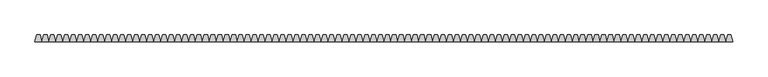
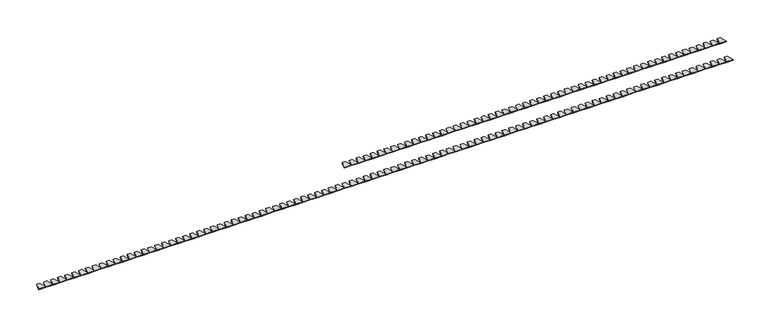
"""IFC4 building model written with IfcOpenShell, lengths in millimetres: duct fitting geometry, Частичная крышка шириной 65 мм - для кабель-канала DLP 65x195 - 2м - белый : Частичная крышка шириной 65 мм - для кабель-канала DLP 65x195 - 2м - белый."""

import ifcopenshell
import ifcopenshell.guid

model = None  # the IFC model being written
_history = None  # IfcOwnerHistory: only IFC2X3 demands one
_inside = {}  # id of a spatial element -> (the spatial element, [elements in it])
_under = {}  # id of a project, library or spatial element -> (it, [spatial elements below it])
_declared = {}  # id of a project -> (the project, [libraries it declares])
_typed = {}  # id of a type object -> (the type object, [elements of that type])
_made_of = {}  # id of a material, layer set ... -> (it, [elements and type objects made of it])


def new_model(schema):
    """Start an empty IFC model of exactly this schema.

    Asked for "IFC4X3", IfcOpenShell would pick the latest addendum, in which some entities
    have other attributes; the version numbers below select the first issue.
    IFC2X3 requires an IfcOwnerHistory on every rooted entity: one is made here for all.
    """
    global model, _history
    if schema == "IFC4X3":
        model = ifcopenshell.file(schema_version=(4, 3, 0, 0))
    else:
        model = ifcopenshell.file(schema=schema)
    _inside.clear()
    _under.clear()
    _declared.clear()
    _typed.clear()
    _made_of.clear()
    _history = None
    if model.schema == "IFC2X3":
        org = make("IfcOrganization", Name="unknown")
        user = make(
            "IfcPersonAndOrganization",
            ThePerson=make("IfcPerson", FamilyName="unknown"),
            TheOrganization=org,
        )
        app = make(
            "IfcApplication",
            ApplicationDeveloper=org,
            Version="unknown",
            ApplicationFullName="unknown",
            ApplicationIdentifier="unknown",
        )
        _history = make(
            "IfcOwnerHistory",
            OwningUser=user,
            OwningApplication=app,
            ChangeAction="ADDED",
            CreationDate=0,
        )
    return model


def make(cls, **values):
    """One entity of the class cls with the attributes given. An attribute that is None is left unset."""
    return model.create_entity(
        cls, **{name: value for name, value in values.items() if value is not None}
    )


def rooted(cls, **values):
    """An entity with a GlobalId (a new one), such as an element, a storey or a relation."""
    return make(cls, GlobalId=ifcopenshell.guid.new(), OwnerHistory=_history, **values)


def si_unit(unit_type, name, prefix=None):
    """IfcSIUnit, for example si_unit("LENGTHUNIT", "METRE", prefix="MILLI")."""
    return make("IfcSIUnit", UnitType=unit_type, Prefix=prefix, Name=name)


def assignment(units):
    """IfcUnitAssignment: the units of a project."""
    return None if units is None else make("IfcUnitAssignment", Units=units)


def point(xyz):
    """IfcCartesianPoint."""
    return None if xyz is None else make("IfcCartesianPoint", Coordinates=xyz)


def direction(xyz):
    """IfcDirection."""
    return None if xyz is None else make("IfcDirection", DirectionRatios=xyz)


def frame(location, z_axis=None, x_axis=None):
    """IfcAxis2Placement3D, a coordinate frame: its origin and axes. An axis left out is left unset."""
    return make(
        "IfcAxis2Placement3D",
        Location=point(location),
        Axis=direction(z_axis),
        RefDirection=direction(x_axis),
    )


def origin():
    """The frame at (0, 0, 0) with its axes left unset."""
    return frame((0.0, 0.0, 0.0))


def place(relative_to, where):
    """IfcLocalPlacement: puts the frame where relative to a parent placement (None: the world)."""
    return make(
        "IfcLocalPlacement", PlacementRelTo=relative_to, RelativePlacement=where
    )


def context(
    kind, dimensions, precision=None, world=None, true_north=None, identifier=None
):
    """IfcGeometricRepresentationContext, for example the 3D "Model" context."""
    return make(
        "IfcGeometricRepresentationContext",
        ContextIdentifier=identifier,
        ContextType=kind,
        CoordinateSpaceDimension=dimensions,
        Precision=precision,
        WorldCoordinateSystem=world,
        TrueNorth=true_north,
    )


def project(units=None, contexts=None):
    """IfcProject with its units and contexts."""
    return rooted(
        "IfcProject",
        Name="project",
        RepresentationContexts=contexts,
        UnitsInContext=assignment(units),
    )


def spatial(cls, under=None, at=None, **own):
    """A site, building, storey or space (cls), placed at a placement, below another one or the project."""
    s = rooted(cls, ObjectPlacement=at, **own)
    if under is not None:
        _under.setdefault(under.id(), (under, []))[1].append(s)
    return s


def polyline(points):
    """IfcPolyline through the points."""
    return make("IfcPolyline", Points=[point(p) for p in points])


def outline(outer, holes=None, kind="AREA"):
    """IfcArbitraryClosedProfileDef: a profile drawn as a closed curve; with holes, ...WithVoids."""
    if holes is None:
        return make("IfcArbitraryClosedProfileDef", ProfileType=kind, OuterCurve=outer)
    return make(
        "IfcArbitraryProfileDefWithVoids",
        ProfileType=kind,
        OuterCurve=outer,
        InnerCurves=holes,
    )


def extrude(swept, where, along, depth):
    """IfcExtrudedAreaSolid: the profile swept, set in the frame where, extruded along a direction by depth."""
    return make(
        "IfcExtrudedAreaSolid",
        SweptArea=swept,
        Position=where,
        ExtrudedDirection=direction(along),
        Depth=depth,
    )


def shape(context_of_items, identifier, shape_type, items):
    """IfcShapeRepresentation: the items that make up one representation, for example the "Body"."""
    return make(
        "IfcShapeRepresentation",
        ContextOfItems=context_of_items,
        RepresentationIdentifier=identifier,
        RepresentationType=shape_type,
        Items=items,
    )


def source(mapping_origin, context_of_items, identifier, shape_type, items):
    """IfcRepresentationMap: a shape defined once, which mapped items show again and again."""
    return make(
        "IfcRepresentationMap",
        MappingOrigin=mapping_origin,
        MappedRepresentation=shape(context_of_items, identifier, shape_type, items),
    )


def transform(
    local_origin,
    x_axis=None,
    y_axis=None,
    z_axis=None,
    scale=None,
    scale2=None,
    scale3=None,
    uniform=True,
):
    """IfcCartesianTransformationOperator3D, or its non-uniform kind. x_axis, y_axis, z_axis: its Axis1, 2, 3."""
    if uniform:
        return make(
            "IfcCartesianTransformationOperator3D",
            Axis1=direction(x_axis),
            Axis2=direction(y_axis),
            LocalOrigin=point(local_origin),
            Scale=scale,
            Axis3=direction(z_axis),
        )
    return make(
        "IfcCartesianTransformationOperator3DnonUniform",
        Axis1=direction(x_axis),
        Axis2=direction(y_axis),
        LocalOrigin=point(local_origin),
        Scale=scale,
        Axis3=direction(z_axis),
        Scale2=scale2,
        Scale3=scale3,
    )


def mapped(mapping_source, mapping_target):
    """IfcMappedItem: shows the shape of a source again, moved by a transform."""
    return make(
        "IfcMappedItem", MappingSource=mapping_source, MappingTarget=mapping_target
    )


def made_of(thing, what):
    """Note that an element or type object is made of a material, layer set ...; save() writes the relation."""
    if what is not None:
        _made_of.setdefault(what.id(), (what, []))[1].append(thing)
    return thing


def element(
    cls,
    number,
    at=None,
    inside=None,
    cuts=None,
    type_object=None,
    material=None,
    context=None,
    identifier="Body",
    shape_type=None,
    held_by="IfcProductDefinitionShape",
    body=None,
    shapes=None,
    **own,
):
    """One element of the class cls, such as IfcWall. Its Tag is "e" and its number.

    at: its placement. inside: the storey or other place that contains it. cuts: it is an
    opening in that element (IfcRelVoidsElement). A single representation is given by context,
    identifier, shape_type and body (its items); several are given by shapes. held_by: the class
    of the entity that holds the representations. save() writes the other relations.
    """
    e = rooted(cls, Tag="e%d" % number, ObjectPlacement=at, **own)
    if body is not None:
        shapes = [shape(context, identifier, shape_type, body)]
    if shapes is not None:
        e.Representation = make(held_by, Representations=shapes)
    if inside is not None:
        _inside.setdefault(inside.id(), (inside, []))[1].append(e)
    if cuts is not None:
        rooted(
            "IfcRelVoidsElement", RelatingBuildingElement=cuts, RelatedOpeningElement=e
        )
    if type_object is not None:
        _typed.setdefault(type_object.id(), (type_object, []))[1].append(e)
    return made_of(e, material)


def aggregate(whole, parts):
    """IfcRelAggregates: a whole, such as a stair, and the parts it consists of."""
    return rooted("IfcRelAggregates", RelatingObject=whole, RelatedObjects=parts)


def save(model, path):
    """Write the relations noted so far, then the file.

    IfcRelAggregates (storeys below a building ...), IfcRelContainedInSpatialStructure (elements
    in a storey), IfcRelDefinesByType, IfcRelAssociatesMaterial and IfcRelDeclares: one each for
    every whole, place, type object, material and project.
    """
    for whole, parts in _under.values():
        aggregate(whole, parts)
    for where, things in _inside.values():
        rooted(
            "IfcRelContainedInSpatialStructure",
            RelatedElements=things,
            RelatingStructure=where,
        )
    for kind, things in _typed.values():
        rooted("IfcRelDefinesByType", RelatedObjects=things, RelatingType=kind)
    for what, things in _made_of.values():
        rooted("IfcRelAssociatesMaterial", RelatedObjects=things, RelatingMaterial=what)
    for by, libraries in _declared.values():
        rooted("IfcRelDeclares", RelatingContext=by, RelatedDefinitions=libraries)
    model.write(path)


def duct_fitting_c2f39a06(model_context):
    return source(origin(), model_context, "Body", "SweptSolid", [
        extrude(outline(polyline([(974.6410162, 20.0), (980.0, 0.0), (960.0, 0.0), (965.7349077, 20.0), (974.6410162, 20.0)])), frame((0.0, 0.0, -32.5), z_axis=(0.0, 0.0, 1.0), x_axis=(1.0, 0.0, 0.0)), (0.0, 0.0, 1.0), 2.0),
        extrude(outline(polyline([(954.6410162, 20.0), (960.0, 0.0), (940.0, 0.0), (945.7349077, 20.0), (954.6410162, 20.0)])), frame((0.0, 0.0, -32.5), z_axis=(0.0, 0.0, 1.0), x_axis=(1.0, 0.0, 0.0)), (0.0, 0.0, 1.0), 2.0),
        extrude(outline(polyline([(934.6410162, 20.0), (940.0, 0.0), (920.0, 0.0), (925.7349077, 20.0), (934.6410162, 20.0)])), frame((0.0, 0.0, -32.5), z_axis=(0.0, 0.0, 1.0), x_axis=(1.0, 0.0, 0.0)), (0.0, 0.0, 1.0), 2.0),
        extrude(outline(polyline([(914.6410162, 20.0), (920.0, 0.0), (900.0, 0.0), (905.7349077, 20.0), (914.6410162, 20.0)])), frame((0.0, 0.0, -32.5), z_axis=(0.0, 0.0, 1.0), x_axis=(1.0, 0.0, 0.0)), (0.0, 0.0, 1.0), 2.0),
        extrude(outline(polyline([(894.6410162, 20.0), (900.0, 0.0), (880.0, 0.0), (885.7349077, 20.0), (894.6410162, 20.0)])), frame((0.0, 0.0, -32.5), z_axis=(0.0, 0.0, 1.0), x_axis=(1.0, 0.0, 0.0)), (0.0, 0.0, 1.0), 2.0),
        extrude(outline(polyline([(874.6410162, 20.0), (880.0, 0.0), (860.0, 0.0), (865.7349077, 20.0), (874.6410162, 20.0)])), frame((0.0, 0.0, -32.5), z_axis=(0.0, 0.0, 1.0), x_axis=(1.0, 0.0, 0.0)), (0.0, 0.0, 1.0), 2.0),
        extrude(outline(polyline([(854.6410162, 20.0), (860.0, 0.0), (840.0, 0.0), (845.7349077, 20.0), (854.6410162, 20.0)])), frame((0.0, 0.0, -32.5), z_axis=(0.0, 0.0, 1.0), x_axis=(1.0, 0.0, 0.0)), (0.0, 0.0, 1.0), 2.0),
        extrude(outline(polyline([(834.6410162, 20.0), (840.0, 0.0), (820.0, 0.0), (825.7349077, 20.0), (834.6410162, 20.0)])), frame((0.0, 0.0, -32.5), z_axis=(0.0, 0.0, 1.0), x_axis=(1.0, 0.0, 0.0)), (0.0, 0.0, 1.0), 2.0),
        extrude(outline(polyline([(814.6410162, 20.0), (820.0, 0.0), (800.0, 0.0), (805.7349077, 20.0), (814.6410162, 20.0)])), frame((0.0, 0.0, -32.5), z_axis=(0.0, 0.0, 1.0), x_axis=(1.0, 0.0, 0.0)), (0.0, 0.0, 1.0), 2.0),
        extrude(outline(polyline([(794.6410162, 20.0), (800.0, 0.0), (780.0, 0.0), (785.7349077, 20.0), (794.6410162, 20.0)])), frame((0.0, 0.0, -32.5), z_axis=(0.0, 0.0, 1.0), x_axis=(1.0, 0.0, 0.0)), (0.0, 0.0, 1.0), 2.0),
        extrude(outline(polyline([(774.6410162, 20.0), (780.0, 0.0), (760.0, 0.0), (765.7349077, 20.0), (774.6410162, 20.0)])), frame((0.0, 0.0, -32.5), z_axis=(0.0, 0.0, 1.0), x_axis=(1.0, 0.0, 0.0)), (0.0, 0.0, 1.0), 2.0),
        extrude(outline(polyline([(754.6410162, 20.0), (760.0, 0.0), (740.0, 0.0), (745.7349077, 20.0), (754.6410162, 20.0)])), frame((0.0, 0.0, -32.5), z_axis=(0.0, 0.0, 1.0), x_axis=(1.0, 0.0, 0.0)), (0.0, 0.0, 1.0), 2.0),
        extrude(outline(polyline([(734.6410162, 20.0), (740.0, 0.0), (720.0, 0.0), (725.7349077, 20.0), (734.6410162, 20.0)])), frame((0.0, 0.0, -32.5), z_axis=(0.0, 0.0, 1.0), x_axis=(1.0, 0.0, 0.0)), (0.0, 0.0, 1.0), 2.0),
        extrude(outline(polyline([(714.6410162, 20.0), (720.0, 0.0), (700.0, 0.0), (705.7349077, 20.0), (714.6410162, 20.0)])), frame((0.0, 0.0, -32.5), z_axis=(0.0, 0.0, 1.0), x_axis=(1.0, 0.0, 0.0)), (0.0, 0.0, 1.0), 2.0),
        extrude(outline(polyline([(694.6410162, 20.0), (700.0, 0.0), (680.0, 0.0), (685.7349077, 20.0), (694.6410162, 20.0)])), frame((0.0, 0.0, -32.5), z_axis=(0.0, 0.0, 1.0), x_axis=(1.0, 0.0, 0.0)), (0.0, 0.0, 1.0), 2.0),
        extrude(outline(polyline([(674.6410162, 20.0), (680.0, 0.0), (660.0, 0.0), (665.7349077, 20.0), (674.6410162, 20.0)])), frame((0.0, 0.0, -32.5), z_axis=(0.0, 0.0, 1.0), x_axis=(1.0, 0.0, 0.0)), (0.0, 0.0, 1.0), 2.0),
        extrude(outline(polyline([(654.6410162, 20.0), (660.0, 0.0), (640.0, 0.0), (645.7349077, 20.0), (654.6410162, 20.0)])), frame((0.0, 0.0, -32.5), z_axis=(0.0, 0.0, 1.0), x_axis=(1.0, 0.0, 0.0)), (0.0, 0.0, 1.0), 2.0),
        extrude(outline(polyline([(634.6410162, 20.0), (640.0, 0.0), (620.0, 0.0), (625.7349077, 20.0), (634.6410162, 20.0)])), frame((0.0, 0.0, -32.5), z_axis=(0.0, 0.0, 1.0), x_axis=(1.0, 0.0, 0.0)), (0.0, 0.0, 1.0), 2.0),
        extrude(outline(polyline([(614.6410162, 20.0), (620.0, 0.0), (600.0, 0.0), (605.7349077, 20.0), (614.6410162, 20.0)])), frame((0.0, 0.0, -32.5), z_axis=(0.0, 0.0, 1.0), x_axis=(1.0, 0.0, 0.0)), (0.0, 0.0, 1.0), 2.0),
        extrude(outline(polyline([(594.6410162, 20.0), (600.0, 0.0), (580.0, 0.0), (585.7349077, 20.0), (594.6410162, 20.0)])), frame((0.0, 0.0, -32.5), z_axis=(0.0, 0.0, 1.0), x_axis=(1.0, 0.0, 0.0)), (0.0, 0.0, 1.0), 2.0),
        extrude(outline(polyline([(574.6410162, 20.0), (580.0, 0.0), (560.0, 0.0), (565.7349077, 20.0), (574.6410162, 20.0)])), frame((0.0, 0.0, -32.5), z_axis=(0.0, 0.0, 1.0), x_axis=(1.0, 0.0, 0.0)), (0.0, 0.0, 1.0), 2.0),
        extrude(outline(polyline([(554.6410162, 20.0), (560.0, 0.0), (540.0, 0.0), (545.7349077, 20.0), (554.6410162, 20.0)])), frame((0.0, 0.0, -32.5), z_axis=(0.0, 0.0, 1.0), x_axis=(1.0, 0.0, 0.0)), (0.0, 0.0, 1.0), 2.0),
        extrude(outline(polyline([(534.6410162, 20.0), (540.0, 0.0), (520.0, 0.0), (525.7349077, 20.0), (534.6410162, 20.0)])), frame((0.0, 0.0, -32.5), z_axis=(0.0, 0.0, 1.0), x_axis=(1.0, 0.0, 0.0)), (0.0, 0.0, 1.0), 2.0),
        extrude(outline(polyline([(514.6410162, 20.0), (520.0, 0.0), (500.0, 0.0), (505.7349077, 20.0), (514.6410162, 20.0)])), frame((0.0, 0.0, -32.5), z_axis=(0.0, 0.0, 1.0), x_axis=(1.0, 0.0, 0.0)), (0.0, 0.0, 1.0), 2.0),
        extrude(outline(polyline([(494.6410162, 20.0), (500.0, 0.0), (480.0, 0.0), (485.7349077, 20.0), (494.6410162, 20.0)])), frame((0.0, 0.0, -32.5), z_axis=(0.0, 0.0, 1.0), x_axis=(1.0, 0.0, 0.0)), (0.0, 0.0, 1.0), 2.0),
        extrude(outline(polyline([(474.6410162, 20.0), (480.0, 0.0), (460.0, 0.0), (465.7349077, 20.0), (474.6410162, 20.0)])), frame((0.0, 0.0, -32.5), z_axis=(0.0, 0.0, 1.0), x_axis=(1.0, 0.0, 0.0)), (0.0, 0.0, 1.0), 2.0),
        extrude(outline(polyline([(454.6410162, 20.0), (460.0, 0.0), (440.0, 0.0), (445.7349077, 20.0), (454.6410162, 20.0)])), frame((0.0, 0.0, -32.5), z_axis=(0.0, 0.0, 1.0), x_axis=(1.0, 0.0, 0.0)), (0.0, 0.0, 1.0), 2.0),
        extrude(outline(polyline([(434.6410162, 20.0), (440.0, 0.0), (420.0, 0.0), (425.7349077, 20.0), (434.6410162, 20.0)])), frame((0.0, 0.0, -32.5), z_axis=(0.0, 0.0, 1.0), x_axis=(1.0, 0.0, 0.0)), (0.0, 0.0, 1.0), 2.0),
        extrude(outline(polyline([(414.6410162, 20.0), (420.0, 0.0), (400.0, 0.0), (405.7349077, 20.0), (414.6410162, 20.0)])), frame((0.0, 0.0, -32.5), z_axis=(0.0, 0.0, 1.0), x_axis=(1.0, 0.0, 0.0)), (0.0, 0.0, 1.0), 2.0),
        extrude(outline(polyline([(394.6410162, 20.0), (400.0, 0.0), (380.0, 0.0), (385.7349077, 20.0), (394.6410162, 20.0)])), frame((0.0, 0.0, -32.5), z_axis=(0.0, 0.0, 1.0), x_axis=(1.0, 0.0, 0.0)), (0.0, 0.0, 1.0), 2.0),
        extrude(outline(polyline([(374.6410162, 20.0), (380.0, 0.0), (360.0, 0.0), (365.7349077, 20.0), (374.6410162, 20.0)])), frame((0.0, 0.0, -32.5), z_axis=(0.0, 0.0, 1.0), x_axis=(1.0, 0.0, 0.0)), (0.0, 0.0, 1.0), 2.0),
        extrude(outline(polyline([(354.6410162, 20.0), (360.0, 0.0), (340.0, 0.0), (345.7349077, 20.0), (354.6410162, 20.0)])), frame((0.0, 0.0, -32.5), z_axis=(0.0, 0.0, 1.0), x_axis=(1.0, 0.0, 0.0)), (0.0, 0.0, 1.0), 2.0),
        extrude(outline(polyline([(334.6410162, 20.0), (340.0, 0.0), (320.0, 0.0), (325.7349077, 20.0), (334.6410162, 20.0)])), frame((0.0, 0.0, -32.5), z_axis=(0.0, 0.0, 1.0), x_axis=(1.0, 0.0, 0.0)), (0.0, 0.0, 1.0), 2.0),
        extrude(outline(polyline([(314.6410162, 20.0), (320.0, 0.0), (300.0, 0.0), (305.7349077, 20.0), (314.6410162, 20.0)])), frame((0.0, 0.0, -32.5), z_axis=(0.0, 0.0, 1.0), x_axis=(1.0, 0.0, 0.0)), (0.0, 0.0, 1.0), 2.0),
        extrude(outline(polyline([(294.6410162, 20.0), (300.0, 0.0), (280.0, 0.0), (285.7349077, 20.0), (294.6410162, 20.0)])), frame((0.0, 0.0, -32.5), z_axis=(0.0, 0.0, 1.0), x_axis=(1.0, 0.0, 0.0)), (0.0, 0.0, 1.0), 2.0),
        extrude(outline(polyline([(274.6410162, 20.0), (280.0, 0.0), (260.0, 0.0), (265.7349077, 20.0), (274.6410162, 20.0)])), frame((0.0, 0.0, -32.5), z_axis=(0.0, 0.0, 1.0), x_axis=(1.0, 0.0, 0.0)), (0.0, 0.0, 1.0), 2.0),
        extrude(outline(polyline([(254.6410162, 20.0), (260.0, 0.0), (240.0, 0.0), (245.7349077, 20.0), (254.6410162, 20.0)])), frame((0.0, 0.0, -32.5), z_axis=(0.0, 0.0, 1.0), x_axis=(1.0, 0.0, 0.0)), (0.0, 0.0, 1.0), 2.0),
        extrude(outline(polyline([(234.6410162, 20.0), (240.0, 0.0), (220.0, 0.0), (225.7349077, 20.0), (234.6410162, 20.0)])), frame((0.0, 0.0, -32.5), z_axis=(0.0, 0.0, 1.0), x_axis=(1.0, 0.0, 0.0)), (0.0, 0.0, 1.0), 2.0),
        extrude(outline(polyline([(214.6410162, 20.0), (220.0, 0.0), (200.0, 0.0), (205.7349077, 20.0), (214.6410162, 20.0)])), frame((0.0, 0.0, -32.5), z_axis=(0.0, 0.0, 1.0), x_axis=(1.0, 0.0, 0.0)), (0.0, 0.0, 1.0), 2.0),
        extrude(outline(polyline([(194.6410162, 20.0), (200.0, 0.0), (180.0, 0.0), (185.7349077, 20.0), (194.6410162, 20.0)])), frame((0.0, 0.0, -32.5), z_axis=(0.0, 0.0, 1.0), x_axis=(1.0, 0.0, 0.0)), (0.0, 0.0, 1.0), 2.0),
        extrude(outline(polyline([(174.6410162, 20.0), (180.0, 0.0), (160.0, 0.0), (165.7349077, 20.0), (174.6410162, 20.0)])), frame((0.0, 0.0, -32.5), z_axis=(0.0, 0.0, 1.0), x_axis=(1.0, 0.0, 0.0)), (0.0, 0.0, 1.0), 2.0),
        extrude(outline(polyline([(154.6410162, 20.0), (160.0, 0.0), (140.0, 0.0), (145.7349077, 20.0), (154.6410162, 20.0)])), frame((0.0, 0.0, -32.5), z_axis=(0.0, 0.0, 1.0), x_axis=(1.0, 0.0, 0.0)), (0.0, 0.0, 1.0), 2.0),
        extrude(outline(polyline([(134.6410162, 20.0), (140.0, 0.0), (120.0, 0.0), (125.7349077, 20.0), (134.6410162, 20.0)])), frame((0.0, 0.0, -32.5), z_axis=(0.0, 0.0, 1.0), x_axis=(1.0, 0.0, 0.0)), (0.0, 0.0, 1.0), 2.0),
        extrude(outline(polyline([(114.6410162, 20.0), (120.0, 0.0), (100.0, 0.0), (105.7349077, 20.0), (114.6410162, 20.0)])), frame((0.0, 0.0, -32.5), z_axis=(0.0, 0.0, 1.0), x_axis=(1.0, 0.0, 0.0)), (0.0, 0.0, 1.0), 2.0),
        extrude(outline(polyline([(94.6410162, 20.0), (100.0, 0.0), (80.0, 0.0), (85.7349077, 20.0), (94.6410162, 20.0)])), frame((0.0, 0.0, -32.5), z_axis=(0.0, 0.0, 1.0), x_axis=(1.0, 0.0, 0.0)), (0.0, 0.0, 1.0), 2.0),
        extrude(outline(polyline([(74.6410162, 20.0), (80.0, 0.0), (60.0, 0.0), (65.7349077, 20.0), (74.6410162, 20.0)])), frame((0.0, 0.0, -32.5), z_axis=(0.0, 0.0, 1.0), x_axis=(1.0, 0.0, 0.0)), (0.0, 0.0, 1.0), 2.0),
        extrude(outline(polyline([(54.6410162, 20.0), (60.0, 0.0), (40.0, 0.0), (45.7349077, 20.0), (54.6410162, 20.0)])), frame((0.0, 0.0, -32.5), z_axis=(0.0, 0.0, 1.0), x_axis=(1.0, 0.0, 0.0)), (0.0, 0.0, 1.0), 2.0),
        extrude(outline(polyline([(34.6410162, 20.0), (40.0, 0.0), (20.0, 0.0), (25.7349077, 20.0), (34.6410162, 20.0)])), frame((0.0, 0.0, -32.5), z_axis=(0.0, 0.0, 1.0), x_axis=(1.0, 0.0, 0.0)), (0.0, 0.0, 1.0), 2.0),
        extrude(outline(polyline([(14.6410162, 20.0), (20.0, 0.0), (0.0, 0.0), (5.7349077, 20.0), (14.6410162, 20.0)])), frame((0.0, 0.0, -32.5), z_axis=(0.0, 0.0, 1.0), x_axis=(1.0, 0.0, 0.0)), (0.0, 0.0, 1.0), 2.0),
        extrude(outline(polyline([(-5.3589838, 20.0), (0.0, 0.0), (-20.0, 0.0), (-14.2650923, 20.0), (-5.3589838, 20.0)])), frame((0.0, 0.0, -32.5), z_axis=(0.0, 0.0, 1.0), x_axis=(1.0, 0.0, 0.0)), (0.0, 0.0, 1.0), 2.0),
        extrude(outline(polyline([(-25.3589838, 20.0), (-20.0, 0.0), (-40.0, 0.0), (-34.2650923, 20.0), (-25.3589838, 20.0)])), frame((0.0, 0.0, -32.5), z_axis=(0.0, 0.0, 1.0), x_axis=(1.0, 0.0, 0.0)), (0.0, 0.0, 1.0), 2.0),
        extrude(outline(polyline([(-45.3589838, 20.0), (-40.0, 0.0), (-60.0, 0.0), (-54.2650923, 20.0), (-45.3589838, 20.0)])), frame((0.0, 0.0, -32.5), z_axis=(0.0, 0.0, 1.0), x_axis=(1.0, 0.0, 0.0)), (0.0, 0.0, 1.0), 2.0),
        extrude(outline(polyline([(-65.3589838, 20.0), (-60.0, 0.0), (-80.0, 0.0), (-74.2650923, 20.0), (-65.3589838, 20.0)])), frame((0.0, 0.0, -32.5), z_axis=(0.0, 0.0, 1.0), x_axis=(1.0, 0.0, 0.0)), (0.0, 0.0, 1.0), 2.0),
        extrude(outline(polyline([(-85.3589838, 20.0), (-80.0, 0.0), (-100.0, 0.0), (-94.2650923, 20.0), (-85.3589838, 20.0)])), frame((0.0, 0.0, -32.5), z_axis=(0.0, 0.0, 1.0), x_axis=(1.0, 0.0, 0.0)), (0.0, 0.0, 1.0), 2.0),
        extrude(outline(polyline([(-105.3589838, 20.0), (-100.0, 0.0), (-120.0, 0.0), (-114.2650923, 20.0), (-105.3589838, 20.0)])), frame((0.0, 0.0, -32.5), z_axis=(0.0, 0.0, 1.0), x_axis=(1.0, 0.0, 0.0)), (0.0, 0.0, 1.0), 2.0),
        extrude(outline(polyline([(-125.3589838, 20.0), (-120.0, 0.0), (-140.0, 0.0), (-134.2650923, 20.0), (-125.3589838, 20.0)])), frame((0.0, 0.0, -32.5), z_axis=(0.0, 0.0, 1.0), x_axis=(1.0, 0.0, 0.0)), (0.0, 0.0, 1.0), 2.0),
        extrude(outline(polyline([(-145.3589838, 20.0), (-140.0, 0.0), (-160.0, 0.0), (-154.2650923, 20.0), (-145.3589838, 20.0)])), frame((0.0, 0.0, -32.5), z_axis=(0.0, 0.0, 1.0), x_axis=(1.0, 0.0, 0.0)), (0.0, 0.0, 1.0), 2.0),
        extrude(outline(polyline([(-165.3589838, 20.0), (-160.0, 0.0), (-180.0, 0.0), (-174.2650923, 20.0), (-165.3589838, 20.0)])), frame((0.0, 0.0, -32.5), z_axis=(0.0, 0.0, 1.0), x_axis=(1.0, 0.0, 0.0)), (0.0, 0.0, 1.0), 2.0),
        extrude(outline(polyline([(-185.3589838, 20.0), (-180.0, 0.0), (-200.0, 0.0), (-194.2650923, 20.0), (-185.3589838, 20.0)])), frame((0.0, 0.0, -32.5), z_axis=(0.0, 0.0, 1.0), x_axis=(1.0, 0.0, 0.0)), (0.0, 0.0, 1.0), 2.0),
        extrude(outline(polyline([(-205.3589838, 20.0), (-200.0, 0.0), (-220.0, 0.0), (-214.2650923, 20.0), (-205.3589838, 20.0)])), frame((0.0, 0.0, -32.5), z_axis=(0.0, 0.0, 1.0), x_axis=(1.0, 0.0, 0.0)), (0.0, 0.0, 1.0), 2.0),
        extrude(outline(polyline([(-225.3589838, 20.0), (-220.0, 0.0), (-240.0, 0.0), (-234.2650923, 20.0), (-225.3589838, 20.0)])), frame((0.0, 0.0, -32.5), z_axis=(0.0, 0.0, 1.0), x_axis=(1.0, 0.0, 0.0)), (0.0, 0.0, 1.0), 2.0),
        extrude(outline(polyline([(-245.3589838, 20.0), (-240.0, 0.0), (-260.0, 0.0), (-254.2650923, 20.0), (-245.3589838, 20.0)])), frame((0.0, 0.0, -32.5), z_axis=(0.0, 0.0, 1.0), x_axis=(1.0, 0.0, 0.0)), (0.0, 0.0, 1.0), 2.0),
        extrude(outline(polyline([(-265.3589838, 20.0), (-260.0, 0.0), (-280.0, 0.0), (-274.2650923, 20.0), (-265.3589838, 20.0)])), frame((0.0, 0.0, -32.5), z_axis=(0.0, 0.0, 1.0), x_axis=(1.0, 0.0, 0.0)), (0.0, 0.0, 1.0), 2.0),
        extrude(outline(polyline([(-285.3589838, 20.0), (-280.0, 0.0), (-300.0, 0.0), (-294.2650923, 20.0), (-285.3589838, 20.0)])), frame((0.0, 0.0, -32.5), z_axis=(0.0, 0.0, 1.0), x_axis=(1.0, 0.0, 0.0)), (0.0, 0.0, 1.0), 2.0),
        extrude(outline(polyline([(-305.3589838, 20.0), (-300.0, 0.0), (-320.0, 0.0), (-314.2650923, 20.0), (-305.3589838, 20.0)])), frame((0.0, 0.0, -32.5), z_axis=(0.0, 0.0, 1.0), x_axis=(1.0, 0.0, 0.0)), (0.0, 0.0, 1.0), 2.0),
        extrude(outline(polyline([(-325.3589838, 20.0), (-320.0, 0.0), (-340.0, 0.0), (-334.2650923, 20.0), (-325.3589838, 20.0)])), frame((0.0, 0.0, -32.5), z_axis=(0.0, 0.0, 1.0), x_axis=(1.0, 0.0, 0.0)), (0.0, 0.0, 1.0), 2.0),
        extrude(outline(polyline([(-345.3589838, 20.0), (-340.0, 0.0), (-360.0, 0.0), (-354.2650923, 20.0), (-345.3589838, 20.0)])), frame((0.0, 0.0, -32.5), z_axis=(0.0, 0.0, 1.0), x_axis=(1.0, 0.0, 0.0)), (0.0, 0.0, 1.0), 2.0),
        extrude(outline(polyline([(-365.3589838, 20.0), (-360.0, 0.0), (-380.0, 0.0), (-374.2650923, 20.0), (-365.3589838, 20.0)])), frame((0.0, 0.0, -32.5), z_axis=(0.0, 0.0, 1.0), x_axis=(1.0, 0.0, 0.0)), (0.0, 0.0, 1.0), 2.0),
        extrude(outline(polyline([(-385.3589838, 20.0), (-380.0, 0.0), (-400.0, 0.0), (-394.2650923, 20.0), (-385.3589838, 20.0)])), frame((0.0, 0.0, -32.5), z_axis=(0.0, 0.0, 1.0), x_axis=(1.0, 0.0, 0.0)), (0.0, 0.0, 1.0), 2.0),
        extrude(outline(polyline([(-405.3589838, 20.0), (-400.0, 0.0), (-420.0, 0.0), (-414.2650923, 20.0), (-405.3589838, 20.0)])), frame((0.0, 0.0, -32.5), z_axis=(0.0, 0.0, 1.0), x_axis=(1.0, 0.0, 0.0)), (0.0, 0.0, 1.0), 2.0),
        extrude(outline(polyline([(-425.3589838, 20.0), (-420.0, 0.0), (-440.0, 0.0), (-434.2650923, 20.0), (-425.3589838, 20.0)])), frame((0.0, 0.0, -32.5), z_axis=(0.0, 0.0, 1.0), x_axis=(1.0, 0.0, 0.0)), (0.0, 0.0, 1.0), 2.0),
        extrude(outline(polyline([(-445.3589838, 20.0), (-440.0, 0.0), (-460.0, 0.0), (-454.2650923, 20.0), (-445.3589838, 20.0)])), frame((0.0, 0.0, -32.5), z_axis=(0.0, 0.0, 1.0), x_axis=(1.0, 0.0, 0.0)), (0.0, 0.0, 1.0), 2.0),
        extrude(outline(polyline([(-465.3589838, 20.0), (-460.0, 0.0), (-480.0, 0.0), (-474.2650923, 20.0), (-465.3589838, 20.0)])), frame((0.0, 0.0, -32.5), z_axis=(0.0, 0.0, 1.0), x_axis=(1.0, 0.0, 0.0)), (0.0, 0.0, 1.0), 2.0),
        extrude(outline(polyline([(-485.3589838, 20.0), (-480.0, 0.0), (-500.0, 0.0), (-494.2650923, 20.0), (-485.3589838, 20.0)])), frame((0.0, 0.0, -32.5), z_axis=(0.0, 0.0, 1.0), x_axis=(1.0, 0.0, 0.0)), (0.0, 0.0, 1.0), 2.0),
        extrude(outline(polyline([(-505.3589838, 20.0), (-500.0, 0.0), (-520.0, 0.0), (-514.2650923, 20.0), (-505.3589838, 20.0)])), frame((0.0, 0.0, -32.5), z_axis=(0.0, 0.0, 1.0), x_axis=(1.0, 0.0, 0.0)), (0.0, 0.0, 1.0), 2.0),
        extrude(outline(polyline([(-525.3589838, 20.0), (-520.0, 0.0), (-540.0, 0.0), (-534.2650923, 20.0), (-525.3589838, 20.0)])), frame((0.0, 0.0, -32.5), z_axis=(0.0, 0.0, 1.0), x_axis=(1.0, 0.0, 0.0)), (0.0, 0.0, 1.0), 2.0),
        extrude(outline(polyline([(-545.3589838, 20.0), (-540.0, 0.0), (-560.0, 0.0), (-554.2650923, 20.0), (-545.3589838, 20.0)])), frame((0.0, 0.0, -32.5), z_axis=(0.0, 0.0, 1.0), x_axis=(1.0, 0.0, 0.0)), (0.0, 0.0, 1.0), 2.0),
        extrude(outline(polyline([(-565.3589838, 20.0), (-560.0, 0.0), (-580.0, 0.0), (-574.2650923, 20.0), (-565.3589838, 20.0)])), frame((0.0, 0.0, -32.5), z_axis=(0.0, 0.0, 1.0), x_axis=(1.0, 0.0, 0.0)), (0.0, 0.0, 1.0), 2.0),
        extrude(outline(polyline([(-585.3589838, 20.0), (-580.0, 0.0), (-600.0, 0.0), (-594.2650923, 20.0), (-585.3589838, 20.0)])), frame((0.0, 0.0, -32.5), z_axis=(0.0, 0.0, 1.0), x_axis=(1.0, 0.0, 0.0)), (0.0, 0.0, 1.0), 2.0),
        extrude(outline(polyline([(-605.3589838, 20.0), (-600.0, 0.0), (-620.0, 0.0), (-614.2650923, 20.0), (-605.3589838, 20.0)])), frame((0.0, 0.0, -32.5), z_axis=(0.0, 0.0, 1.0), x_axis=(1.0, 0.0, 0.0)), (0.0, 0.0, 1.0), 2.0),
        extrude(outline(polyline([(-625.3589838, 20.0), (-620.0, 0.0), (-640.0, 0.0), (-634.2650923, 20.0), (-625.3589838, 20.0)])), frame((0.0, 0.0, -32.5), z_axis=(0.0, 0.0, 1.0), x_axis=(1.0, 0.0, 0.0)), (0.0, 0.0, 1.0), 2.0),
        extrude(outline(polyline([(-645.3589838, 20.0), (-640.0, 0.0), (-660.0, 0.0), (-654.2650923, 20.0), (-645.3589838, 20.0)])), frame((0.0, 0.0, -32.5), z_axis=(0.0, 0.0, 1.0), x_axis=(1.0, 0.0, 0.0)), (0.0, 0.0, 1.0), 2.0),
        extrude(outline(polyline([(-665.3589838, 20.0), (-660.0, 0.0), (-680.0, 0.0), (-674.2650923, 20.0), (-665.3589838, 20.0)])), frame((0.0, 0.0, -32.5), z_axis=(0.0, 0.0, 1.0), x_axis=(1.0, 0.0, 0.0)), (0.0, 0.0, 1.0), 2.0),
        extrude(outline(polyline([(-685.3589838, 20.0), (-680.0, 0.0), (-700.0, 0.0), (-694.2650923, 20.0), (-685.3589838, 20.0)])), frame((0.0, 0.0, -32.5), z_axis=(0.0, 0.0, 1.0), x_axis=(1.0, 0.0, 0.0)), (0.0, 0.0, 1.0), 2.0),
        extrude(outline(polyline([(-705.3589838, 20.0), (-700.0, 0.0), (-720.0, 0.0), (-714.2650923, 20.0), (-705.3589838, 20.0)])), frame((0.0, 0.0, -32.5), z_axis=(0.0, 0.0, 1.0), x_axis=(1.0, 0.0, 0.0)), (0.0, 0.0, 1.0), 2.0),
        extrude(outline(polyline([(-725.3589838, 20.0), (-720.0, 0.0), (-740.0, 0.0), (-734.2650923, 20.0), (-725.3589838, 20.0)])), frame((0.0, 0.0, -32.5), z_axis=(0.0, 0.0, 1.0), x_axis=(1.0, 0.0, 0.0)), (0.0, 0.0, 1.0), 2.0),
        extrude(outline(polyline([(-745.3589838, 20.0), (-740.0, 0.0), (-760.0, 0.0), (-754.2650923, 20.0), (-745.3589838, 20.0)])), frame((0.0, 0.0, -32.5), z_axis=(0.0, 0.0, 1.0), x_axis=(1.0, 0.0, 0.0)), (0.0, 0.0, 1.0), 2.0),
        extrude(outline(polyline([(-765.3589838, 20.0), (-760.0, 0.0), (-780.0, 0.0), (-774.2650923, 20.0), (-765.3589838, 20.0)])), frame((0.0, 0.0, -32.5), z_axis=(0.0, 0.0, 1.0), x_axis=(1.0, 0.0, 0.0)), (0.0, 0.0, 1.0), 2.0),
        extrude(outline(polyline([(-785.3589838, 20.0), (-780.0, 0.0), (-800.0, 0.0), (-794.2650923, 20.0), (-785.3589838, 20.0)])), frame((0.0, 0.0, -32.5), z_axis=(0.0, 0.0, 1.0), x_axis=(1.0, 0.0, 0.0)), (0.0, 0.0, 1.0), 2.0),
        extrude(outline(polyline([(-805.3589838, 20.0), (-800.0, 0.0), (-820.0, 0.0), (-814.2650923, 20.0), (-805.3589838, 20.0)])), frame((0.0, 0.0, -32.5), z_axis=(0.0, 0.0, 1.0), x_axis=(1.0, 0.0, 0.0)), (0.0, 0.0, 1.0), 2.0),
        extrude(outline(polyline([(-825.3589838, 20.0), (-820.0, 0.0), (-840.0, 0.0), (-834.2650923, 20.0), (-825.3589838, 20.0)])), frame((0.0, 0.0, -32.5), z_axis=(0.0, 0.0, 1.0), x_axis=(1.0, 0.0, 0.0)), (0.0, 0.0, 1.0), 2.0),
        extrude(outline(polyline([(-845.3589838, 20.0), (-840.0, 0.0), (-860.0, 0.0), (-854.2650923, 20.0), (-845.3589838, 20.0)])), frame((0.0, 0.0, -32.5), z_axis=(0.0, 0.0, 1.0), x_axis=(1.0, 0.0, 0.0)), (0.0, 0.0, 1.0), 2.0),
        extrude(outline(polyline([(-865.3589838, 20.0), (-860.0, 0.0), (-880.0, 0.0), (-874.2650923, 20.0), (-865.3589838, 20.0)])), frame((0.0, 0.0, -32.5), z_axis=(0.0, 0.0, 1.0), x_axis=(1.0, 0.0, 0.0)), (0.0, 0.0, 1.0), 2.0),
        extrude(outline(polyline([(-885.3589838, 20.0), (-880.0, 0.0), (-900.0, 0.0), (-894.2650923, 20.0), (-885.3589838, 20.0)])), frame((0.0, 0.0, -32.5), z_axis=(0.0, 0.0, 1.0), x_axis=(1.0, 0.0, 0.0)), (0.0, 0.0, 1.0), 2.0),
        extrude(outline(polyline([(-905.3589838, 20.0), (-900.0, 0.0), (-920.0, 0.0), (-914.2650923, 20.0), (-905.3589838, 20.0)])), frame((0.0, 0.0, -32.5), z_axis=(0.0, 0.0, 1.0), x_axis=(1.0, 0.0, 0.0)), (0.0, 0.0, 1.0), 2.0),
        extrude(outline(polyline([(-925.3589838, 20.0), (-920.0, 0.0), (-940.0, 0.0), (-934.2650923, 20.0), (-925.3589838, 20.0)])), frame((0.0, 0.0, -32.5), z_axis=(0.0, 0.0, 1.0), x_axis=(1.0, 0.0, 0.0)), (0.0, 0.0, 1.0), 2.0),
        extrude(outline(polyline([(-945.3589838, 20.0), (-940.0, 0.0), (-960.0, 0.0), (-954.2650923, 20.0), (-945.3589838, 20.0)])), frame((0.0, 0.0, -32.5), z_axis=(0.0, 0.0, 1.0), x_axis=(1.0, 0.0, 0.0)), (0.0, 0.0, 1.0), 2.0),
        extrude(outline(polyline([(-965.3589838, 20.0), (-960.0, 0.0), (-980.0, 0.0), (-974.2650923, 20.0), (-965.3589838, 20.0)])), frame((0.0, 0.0, -32.5), z_axis=(0.0, 0.0, 1.0), x_axis=(1.0, 0.0, 0.0)), (0.0, 0.0, 1.0), 2.0),
        extrude(outline(polyline([(994.6410162, 20.0), (1000.0, 0.0), (980.0, 0.0), (985.7349077, 20.0), (994.6410162, 20.0)])), frame((0.0, 0.0, -32.5), z_axis=(0.0, 0.0, 1.0), x_axis=(1.0, 0.0, 0.0)), (0.0, 0.0, 1.0), 2.0),
        extrude(outline(polyline([(-985.3589838, 20.0), (-980.0, 0.0), (-1000.0, 0.0), (-994.2650923, 20.0), (-985.3589838, 20.0)])), frame((0.0, 0.0, -32.5), z_axis=(0.0, 0.0, 1.0), x_axis=(1.0, 0.0, 0.0)), (0.0, 0.0, 1.0), 2.0),
        extrude(outline(polyline([(974.6410162, 20.0), (980.0, 0.0), (960.0, 0.0), (965.7349077, 20.0), (974.6410162, 20.0)])), frame((0.0, 0.0, 30.5), z_axis=(0.0, 0.0, 1.0), x_axis=(1.0, 0.0, 0.0)), (0.0, 0.0, 1.0), 2.0),
        extrude(outline(polyline([(954.6410162, 20.0), (960.0, 0.0), (940.0, 0.0), (945.7349077, 20.0), (954.6410162, 20.0)])), frame((0.0, 0.0, 30.5), z_axis=(0.0, 0.0, 1.0), x_axis=(1.0, 0.0, 0.0)), (0.0, 0.0, 1.0), 2.0),
        extrude(outline(polyline([(934.6410162, 20.0), (940.0, 0.0), (920.0, 0.0), (925.7349077, 20.0), (934.6410162, 20.0)])), frame((0.0, 0.0, 30.5), z_axis=(0.0, 0.0, 1.0), x_axis=(1.0, 0.0, 0.0)), (0.0, 0.0, 1.0), 2.0),
        extrude(outline(polyline([(914.6410162, 20.0), (920.0, 0.0), (900.0, 0.0), (905.7349077, 20.0), (914.6410162, 20.0)])), frame((0.0, 0.0, 30.5), z_axis=(0.0, 0.0, 1.0), x_axis=(1.0, 0.0, 0.0)), (0.0, 0.0, 1.0), 2.0),
        extrude(outline(polyline([(894.6410162, 20.0), (900.0, 0.0), (880.0, 0.0), (885.7349077, 20.0), (894.6410162, 20.0)])), frame((0.0, 0.0, 30.5), z_axis=(0.0, 0.0, 1.0), x_axis=(1.0, 0.0, 0.0)), (0.0, 0.0, 1.0), 2.0),
        extrude(outline(polyline([(874.6410162, 20.0), (880.0, 0.0), (860.0, 0.0), (865.7349077, 20.0), (874.6410162, 20.0)])), frame((0.0, 0.0, 30.5), z_axis=(0.0, 0.0, 1.0), x_axis=(1.0, 0.0, 0.0)), (0.0, 0.0, 1.0), 2.0),
        extrude(outline(polyline([(854.6410162, 20.0), (860.0, 0.0), (840.0, 0.0), (845.7349077, 20.0), (854.6410162, 20.0)])), frame((0.0, 0.0, 30.5), z_axis=(0.0, 0.0, 1.0), x_axis=(1.0, 0.0, 0.0)), (0.0, 0.0, 1.0), 2.0),
        extrude(outline(polyline([(834.6410162, 20.0), (840.0, 0.0), (820.0, 0.0), (825.7349077, 20.0), (834.6410162, 20.0)])), frame((0.0, 0.0, 30.5), z_axis=(0.0, 0.0, 1.0), x_axis=(1.0, 0.0, 0.0)), (0.0, 0.0, 1.0), 2.0),
        extrude(outline(polyline([(814.6410162, 20.0), (820.0, 0.0), (800.0, 0.0), (805.7349077, 20.0), (814.6410162, 20.0)])), frame((0.0, 0.0, 30.5), z_axis=(0.0, 0.0, 1.0), x_axis=(1.0, 0.0, 0.0)), (0.0, 0.0, 1.0), 2.0),
        extrude(outline(polyline([(794.6410162, 20.0), (800.0, 0.0), (780.0, 0.0), (785.7349077, 20.0), (794.6410162, 20.0)])), frame((0.0, 0.0, 30.5), z_axis=(0.0, 0.0, 1.0), x_axis=(1.0, 0.0, 0.0)), (0.0, 0.0, 1.0), 2.0),
        extrude(outline(polyline([(774.6410162, 20.0), (780.0, 0.0), (760.0, 0.0), (765.7349077, 20.0), (774.6410162, 20.0)])), frame((0.0, 0.0, 30.5), z_axis=(0.0, 0.0, 1.0), x_axis=(1.0, 0.0, 0.0)), (0.0, 0.0, 1.0), 2.0),
        extrude(outline(polyline([(754.6410162, 20.0), (760.0, 0.0), (740.0, 0.0), (745.7349077, 20.0), (754.6410162, 20.0)])), frame((0.0, 0.0, 30.5), z_axis=(0.0, 0.0, 1.0), x_axis=(1.0, 0.0, 0.0)), (0.0, 0.0, 1.0), 2.0),
        extrude(outline(polyline([(734.6410162, 20.0), (740.0, 0.0), (720.0, 0.0), (725.7349077, 20.0), (734.6410162, 20.0)])), frame((0.0, 0.0, 30.5), z_axis=(0.0, 0.0, 1.0), x_axis=(1.0, 0.0, 0.0)), (0.0, 0.0, 1.0), 2.0),
        extrude(outline(polyline([(714.6410162, 20.0), (720.0, 0.0), (700.0, 0.0), (705.7349077, 20.0), (714.6410162, 20.0)])), frame((0.0, 0.0, 30.5), z_axis=(0.0, 0.0, 1.0), x_axis=(1.0, 0.0, 0.0)), (0.0, 0.0, 1.0), 2.0),
        extrude(outline(polyline([(694.6410162, 20.0), (700.0, 0.0), (680.0, 0.0), (685.7349077, 20.0), (694.6410162, 20.0)])), frame((0.0, 0.0, 30.5), z_axis=(0.0, 0.0, 1.0), x_axis=(1.0, 0.0, 0.0)), (0.0, 0.0, 1.0), 2.0),
        extrude(outline(polyline([(674.6410162, 20.0), (680.0, 0.0), (660.0, 0.0), (665.7349077, 20.0), (674.6410162, 20.0)])), frame((0.0, 0.0, 30.5), z_axis=(0.0, 0.0, 1.0), x_axis=(1.0, 0.0, 0.0)), (0.0, 0.0, 1.0), 2.0),
        extrude(outline(polyline([(654.6410162, 20.0), (660.0, 0.0), (640.0, 0.0), (645.7349077, 20.0), (654.6410162, 20.0)])), frame((0.0, 0.0, 30.5), z_axis=(0.0, 0.0, 1.0), x_axis=(1.0, 0.0, 0.0)), (0.0, 0.0, 1.0), 2.0),
        extrude(outline(polyline([(634.6410162, 20.0), (640.0, 0.0), (620.0, 0.0), (625.7349077, 20.0), (634.6410162, 20.0)])), frame((0.0, 0.0, 30.5), z_axis=(0.0, 0.0, 1.0), x_axis=(1.0, 0.0, 0.0)), (0.0, 0.0, 1.0), 2.0),
        extrude(outline(polyline([(614.6410162, 20.0), (620.0, 0.0), (600.0, 0.0), (605.7349077, 20.0), (614.6410162, 20.0)])), frame((0.0, 0.0, 30.5), z_axis=(0.0, 0.0, 1.0), x_axis=(1.0, 0.0, 0.0)), (0.0, 0.0, 1.0), 2.0),
        extrude(outline(polyline([(594.6410162, 20.0), (600.0, 0.0), (580.0, 0.0), (585.7349077, 20.0), (594.6410162, 20.0)])), frame((0.0, 0.0, 30.5), z_axis=(0.0, 0.0, 1.0), x_axis=(1.0, 0.0, 0.0)), (0.0, 0.0, 1.0), 2.0),
        extrude(outline(polyline([(574.6410162, 20.0), (580.0, 0.0), (560.0, 0.0), (565.7349077, 20.0), (574.6410162, 20.0)])), frame((0.0, 0.0, 30.5), z_axis=(0.0, 0.0, 1.0), x_axis=(1.0, 0.0, 0.0)), (0.0, 0.0, 1.0), 2.0),
        extrude(outline(polyline([(554.6410162, 20.0), (560.0, 0.0), (540.0, 0.0), (545.7349077, 20.0), (554.6410162, 20.0)])), frame((0.0, 0.0, 30.5), z_axis=(0.0, 0.0, 1.0), x_axis=(1.0, 0.0, 0.0)), (0.0, 0.0, 1.0), 2.0),
        extrude(outline(polyline([(534.6410162, 20.0), (540.0, 0.0), (520.0, 0.0), (525.7349077, 20.0), (534.6410162, 20.0)])), frame((0.0, 0.0, 30.5), z_axis=(0.0, 0.0, 1.0), x_axis=(1.0, 0.0, 0.0)), (0.0, 0.0, 1.0), 2.0),
        extrude(outline(polyline([(514.6410162, 20.0), (520.0, 0.0), (500.0, 0.0), (505.7349077, 20.0), (514.6410162, 20.0)])), frame((0.0, 0.0, 30.5), z_axis=(0.0, 0.0, 1.0), x_axis=(1.0, 0.0, 0.0)), (0.0, 0.0, 1.0), 2.0),
        extrude(outline(polyline([(494.6410162, 20.0), (500.0, 0.0), (480.0, 0.0), (485.7349077, 20.0), (494.6410162, 20.0)])), frame((0.0, 0.0, 30.5), z_axis=(0.0, 0.0, 1.0), x_axis=(1.0, 0.0, 0.0)), (0.0, 0.0, 1.0), 2.0),
        extrude(outline(polyline([(474.6410162, 20.0), (480.0, 0.0), (460.0, 0.0), (465.7349077, 20.0), (474.6410162, 20.0)])), frame((0.0, 0.0, 30.5), z_axis=(0.0, 0.0, 1.0), x_axis=(1.0, 0.0, 0.0)), (0.0, 0.0, 1.0), 2.0),
        extrude(outline(polyline([(454.6410162, 20.0), (460.0, 0.0), (440.0, 0.0), (445.7349077, 20.0), (454.6410162, 20.0)])), frame((0.0, 0.0, 30.5), z_axis=(0.0, 0.0, 1.0), x_axis=(1.0, 0.0, 0.0)), (0.0, 0.0, 1.0), 2.0),
        extrude(outline(polyline([(434.6410162, 20.0), (440.0, 0.0), (420.0, 0.0), (425.7349077, 20.0), (434.6410162, 20.0)])), frame((0.0, 0.0, 30.5), z_axis=(0.0, 0.0, 1.0), x_axis=(1.0, 0.0, 0.0)), (0.0, 0.0, 1.0), 2.0),
        extrude(outline(polyline([(414.6410162, 20.0), (420.0, 0.0), (400.0, 0.0), (405.7349077, 20.0), (414.6410162, 20.0)])), frame((0.0, 0.0, 30.5), z_axis=(0.0, 0.0, 1.0), x_axis=(1.0, 0.0, 0.0)), (0.0, 0.0, 1.0), 2.0),
        extrude(outline(polyline([(394.6410162, 20.0), (400.0, 0.0), (380.0, 0.0), (385.7349077, 20.0), (394.6410162, 20.0)])), frame((0.0, 0.0, 30.5), z_axis=(0.0, 0.0, 1.0), x_axis=(1.0, 0.0, 0.0)), (0.0, 0.0, 1.0), 2.0),
        extrude(outline(polyline([(374.6410162, 20.0), (380.0, 0.0), (360.0, 0.0), (365.7349077, 20.0), (374.6410162, 20.0)])), frame((0.0, 0.0, 30.5), z_axis=(0.0, 0.0, 1.0), x_axis=(1.0, 0.0, 0.0)), (0.0, 0.0, 1.0), 2.0),
        extrude(outline(polyline([(354.6410162, 20.0), (360.0, 0.0), (340.0, 0.0), (345.7349077, 20.0), (354.6410162, 20.0)])), frame((0.0, 0.0, 30.5), z_axis=(0.0, 0.0, 1.0), x_axis=(1.0, 0.0, 0.0)), (0.0, 0.0, 1.0), 2.0),
        extrude(outline(polyline([(334.6410162, 20.0), (340.0, 0.0), (320.0, 0.0), (325.7349077, 20.0), (334.6410162, 20.0)])), frame((0.0, 0.0, 30.5), z_axis=(0.0, 0.0, 1.0), x_axis=(1.0, 0.0, 0.0)), (0.0, 0.0, 1.0), 2.0),
        extrude(outline(polyline([(314.6410162, 20.0), (320.0, 0.0), (300.0, 0.0), (305.7349077, 20.0), (314.6410162, 20.0)])), frame((0.0, 0.0, 30.5), z_axis=(0.0, 0.0, 1.0), x_axis=(1.0, 0.0, 0.0)), (0.0, 0.0, 1.0), 2.0),
        extrude(outline(polyline([(294.6410162, 20.0), (300.0, 0.0), (280.0, 0.0), (285.7349077, 20.0), (294.6410162, 20.0)])), frame((0.0, 0.0, 30.5), z_axis=(0.0, 0.0, 1.0), x_axis=(1.0, 0.0, 0.0)), (0.0, 0.0, 1.0), 2.0),
        extrude(outline(polyline([(274.6410162, 20.0), (280.0, 0.0), (260.0, 0.0), (265.7349077, 20.0), (274.6410162, 20.0)])), frame((0.0, 0.0, 30.5), z_axis=(0.0, 0.0, 1.0), x_axis=(1.0, 0.0, 0.0)), (0.0, 0.0, 1.0), 2.0),
        extrude(outline(polyline([(254.6410162, 20.0), (260.0, 0.0), (240.0, 0.0), (245.7349077, 20.0), (254.6410162, 20.0)])), frame((0.0, 0.0, 30.5), z_axis=(0.0, 0.0, 1.0), x_axis=(1.0, 0.0, 0.0)), (0.0, 0.0, 1.0), 2.0),
        extrude(outline(polyline([(234.6410162, 20.0), (240.0, 0.0), (220.0, 0.0), (225.7349077, 20.0), (234.6410162, 20.0)])), frame((0.0, 0.0, 30.5), z_axis=(0.0, 0.0, 1.0), x_axis=(1.0, 0.0, 0.0)), (0.0, 0.0, 1.0), 2.0),
        extrude(outline(polyline([(214.6410162, 20.0), (220.0, 0.0), (200.0, 0.0), (205.7349077, 20.0), (214.6410162, 20.0)])), frame((0.0, 0.0, 30.5), z_axis=(0.0, 0.0, 1.0), x_axis=(1.0, 0.0, 0.0)), (0.0, 0.0, 1.0), 2.0),
        extrude(outline(polyline([(194.6410162, 20.0), (200.0, 0.0), (180.0, 0.0), (185.7349077, 20.0), (194.6410162, 20.0)])), frame((0.0, 0.0, 30.5), z_axis=(0.0, 0.0, 1.0), x_axis=(1.0, 0.0, 0.0)), (0.0, 0.0, 1.0), 2.0),
        extrude(outline(polyline([(174.6410162, 20.0), (180.0, 0.0), (160.0, 0.0), (165.7349077, 20.0), (174.6410162, 20.0)])), frame((0.0, 0.0, 30.5), z_axis=(0.0, 0.0, 1.0), x_axis=(1.0, 0.0, 0.0)), (0.0, 0.0, 1.0), 2.0),
        extrude(outline(polyline([(154.6410162, 20.0), (160.0, 0.0), (140.0, 0.0), (145.7349077, 20.0), (154.6410162, 20.0)])), frame((0.0, 0.0, 30.5), z_axis=(0.0, 0.0, 1.0), x_axis=(1.0, 0.0, 0.0)), (0.0, 0.0, 1.0), 2.0),
        extrude(outline(polyline([(134.6410162, 20.0), (140.0, 0.0), (120.0, 0.0), (125.7349077, 20.0), (134.6410162, 20.0)])), frame((0.0, 0.0, 30.5), z_axis=(0.0, 0.0, 1.0), x_axis=(1.0, 0.0, 0.0)), (0.0, 0.0, 1.0), 2.0),
        extrude(outline(polyline([(114.6410162, 20.0), (120.0, 0.0), (100.0, 0.0), (105.7349077, 20.0), (114.6410162, 20.0)])), frame((0.0, 0.0, 30.5), z_axis=(0.0, 0.0, 1.0), x_axis=(1.0, 0.0, 0.0)), (0.0, 0.0, 1.0), 2.0),
        extrude(outline(polyline([(94.6410162, 20.0), (100.0, 0.0), (80.0, 0.0), (85.7349077, 20.0), (94.6410162, 20.0)])), frame((0.0, 0.0, 30.5), z_axis=(0.0, 0.0, 1.0), x_axis=(1.0, 0.0, 0.0)), (0.0, 0.0, 1.0), 2.0),
        extrude(outline(polyline([(74.6410162, 20.0), (80.0, 0.0), (60.0, 0.0), (65.7349077, 20.0), (74.6410162, 20.0)])), frame((0.0, 0.0, 30.5), z_axis=(0.0, 0.0, 1.0), x_axis=(1.0, 0.0, 0.0)), (0.0, 0.0, 1.0), 2.0),
        extrude(outline(polyline([(54.6410162, 20.0), (60.0, 0.0), (40.0, 0.0), (45.7349077, 20.0), (54.6410162, 20.0)])), frame((0.0, 0.0, 30.5), z_axis=(0.0, 0.0, 1.0), x_axis=(1.0, 0.0, 0.0)), (0.0, 0.0, 1.0), 2.0),
        extrude(outline(polyline([(34.6410162, 20.0), (40.0, 0.0), (20.0, 0.0), (25.7349077, 20.0), (34.6410162, 20.0)])), frame((0.0, 0.0, 30.5), z_axis=(0.0, 0.0, 1.0), x_axis=(1.0, 0.0, 0.0)), (0.0, 0.0, 1.0), 2.0),
        extrude(outline(polyline([(14.6410162, 20.0), (20.0, 0.0), (0.0, 0.0), (5.7349077, 20.0), (14.6410162, 20.0)])), frame((0.0, 0.0, 30.5), z_axis=(0.0, 0.0, 1.0), x_axis=(1.0, 0.0, 0.0)), (0.0, 0.0, 1.0), 2.0),
        extrude(outline(polyline([(-5.3589838, 20.0), (0.0, 0.0), (-20.0, 0.0), (-14.2650923, 20.0), (-5.3589838, 20.0)])), frame((0.0, 0.0, 30.5), z_axis=(0.0, 0.0, 1.0), x_axis=(1.0, 0.0, 0.0)), (0.0, 0.0, 1.0), 2.0),
        extrude(outline(polyline([(-25.3589838, 20.0), (-20.0, 0.0), (-40.0, 0.0), (-34.2650923, 20.0), (-25.3589838, 20.0)])), frame((0.0, 0.0, 30.5), z_axis=(0.0, 0.0, 1.0), x_axis=(1.0, 0.0, 0.0)), (0.0, 0.0, 1.0), 2.0),
        extrude(outline(polyline([(-45.3589838, 20.0), (-40.0, 0.0), (-60.0, 0.0), (-54.2650923, 20.0), (-45.3589838, 20.0)])), frame((0.0, 0.0, 30.5), z_axis=(0.0, 0.0, 1.0), x_axis=(1.0, 0.0, 0.0)), (0.0, 0.0, 1.0), 2.0),
        extrude(outline(polyline([(-65.3589838, 20.0), (-60.0, 0.0), (-80.0, 0.0), (-74.2650923, 20.0), (-65.3589838, 20.0)])), frame((0.0, 0.0, 30.5), z_axis=(0.0, 0.0, 1.0), x_axis=(1.0, 0.0, 0.0)), (0.0, 0.0, 1.0), 2.0),
        extrude(outline(polyline([(-85.3589838, 20.0), (-80.0, 0.0), (-100.0, 0.0), (-94.2650923, 20.0), (-85.3589838, 20.0)])), frame((0.0, 0.0, 30.5), z_axis=(0.0, 0.0, 1.0), x_axis=(1.0, 0.0, 0.0)), (0.0, 0.0, 1.0), 2.0),
        extrude(outline(polyline([(-105.3589838, 20.0), (-100.0, 0.0), (-120.0, 0.0), (-114.2650923, 20.0), (-105.3589838, 20.0)])), frame((0.0, 0.0, 30.5), z_axis=(0.0, 0.0, 1.0), x_axis=(1.0, 0.0, 0.0)), (0.0, 0.0, 1.0), 2.0),
    ])


if __name__ == "__main__":
    model = new_model("IFC4")
    model_context = context("Model", 3, world=origin())
    ifc_project = project(units=[si_unit("LENGTHUNIT", "METRE", prefix="MILLI")], contexts=[model_context])
    site = spatial("IfcSite", under=ifc_project)
    building = spatial("IfcBuilding", under=site)
    placement = place(None, origin())
    duct_fitting_shape = duct_fitting_c2f39a06(model_context)
    element("IfcDuctFitting", 1, ObjectType="Частичная крышка шириной 65 мм - для кабель-канала DLP 65x195 - 2м - белый : Частичная крышка шириной 65 мм - для кабель-канала DLP 65x195 - 2м - белый", at=placement, inside=building, context=model_context, shape_type="MappedRepresentation", body=[
        mapped(duct_fitting_shape, transform((0.0, 0.0, 0.0), x_axis=(1.0, 0.0, 0.0), y_axis=(0.0, 1.0, 0.0), z_axis=(0.0, 0.0, 1.0))),
    ])
    save(model, "model.ifc")
